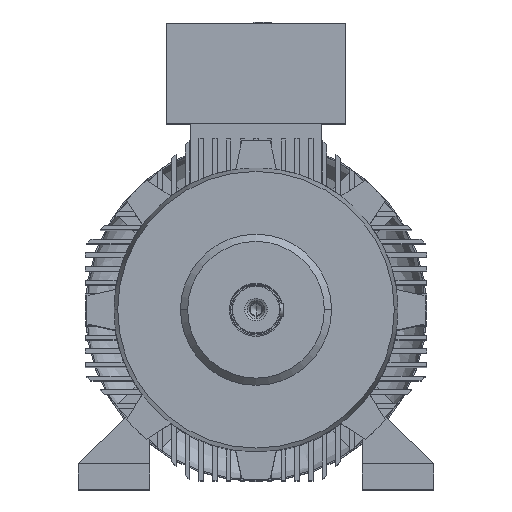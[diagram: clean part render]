
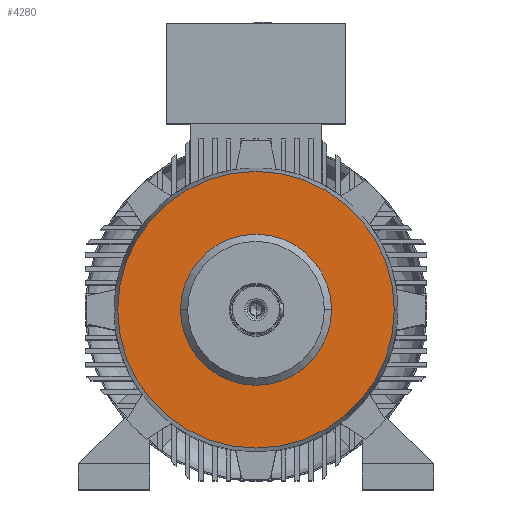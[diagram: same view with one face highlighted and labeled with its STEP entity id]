
A CAD part, top view. The second image highlights one B-rep face of the part: STEP entity #4280.
In plain terms, the highlighted planar face has unit normal (0, 0, 1).
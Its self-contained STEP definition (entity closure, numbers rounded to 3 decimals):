
#6 = DIRECTION ( 'NONE',  ( 0., 0., -1. ) ) ;
#317 = FACE_OUTER_BOUND ( 'NONE', #11573, .T. ) ;
#465 = AXIS2_PLACEMENT_3D ( 'NONE', #8291, #15051, #10651 ) ;
#1075 = CARTESIAN_POINT ( 'NONE',  ( 117.8, 0., 383.3 ) ) ;
#2151 = EDGE_CURVE ( 'NONE', #15512, #13741, #19038, .T. ) ;
#2613 = PLANE ( 'NONE',  #28992 ) ;
#4280 = ADVANCED_FACE ( 'NONE', ( #14175, #317 ), #2613, .F. ) ;
#5361 = DIRECTION ( 'NONE',  ( 0., 0., -1. ) ) ;
#6161 = CARTESIAN_POINT ( 'NONE',  ( 0., 0., 383.3 ) ) ;
#7180 = ORIENTED_EDGE ( 'NONE', *, *, #10897, .T. ) ;
#8291 = CARTESIAN_POINT ( 'NONE',  ( 0., 0., 383.3 ) ) ;
#8577 = EDGE_CURVE ( 'NONE', #13741, #15512, #25016, .T. ) ;
#9967 = CIRCLE ( 'NONE', #18333, 117.8 ) ;
#10133 = DIRECTION ( 'NONE',  ( 1., 0., 0. ) ) ;
#10651 = DIRECTION ( 'NONE',  ( 1., 0., 0. ) ) ;
#10735 = EDGE_LOOP ( 'NONE', ( #29249, #7180 ) ) ;
#10897 = EDGE_CURVE ( 'NONE', #12649, #18101, #9967, .T. ) ;
#11573 = EDGE_LOOP ( 'NONE', ( #13871, #15370 ) ) ;
#11678 = DIRECTION ( 'NONE',  ( 1., 0., 0. ) ) ;
#12649 = VERTEX_POINT ( 'NONE', #18479 ) ;
#12777 = DIRECTION ( 'NONE',  ( 0., 0., 1. ) ) ;
#13271 = DIRECTION ( 'NONE',  ( 0., 0., 1. ) ) ;
#13741 = VERTEX_POINT ( 'NONE', #18198 ) ;
#13871 = ORIENTED_EDGE ( 'NONE', *, *, #8577, .T. ) ;
#14175 = FACE_BOUND ( 'NONE', #10735, .T. ) ;
#14530 = DIRECTION ( 'NONE',  ( 1., 0., 0. ) ) ;
#15051 = DIRECTION ( 'NONE',  ( 0., 0., -1. ) ) ;
#15370 = ORIENTED_EDGE ( 'NONE', *, *, #2151, .T. ) ;
#15512 = VERTEX_POINT ( 'NONE', #28819 ) ;
#18101 = VERTEX_POINT ( 'NONE', #1075 ) ;
#18198 = CARTESIAN_POINT ( 'NONE',  ( 215.714, 0., 383.3 ) ) ;
#18333 = AXIS2_PLACEMENT_3D ( 'NONE', #20941, #6, #11678 ) ;
#18479 = CARTESIAN_POINT ( 'NONE',  ( -117.8, 0., 383.3 ) ) ;
#18542 = CIRCLE ( 'NONE', #465, 117.8 ) ;
#19038 = CIRCLE ( 'NONE', #19209, 215.714 ) ;
#19209 = AXIS2_PLACEMENT_3D ( 'NONE', #19803, #12777, #10133 ) ;
#19803 = CARTESIAN_POINT ( 'NONE',  ( 0., 0., 383.3 ) ) ;
#20941 = CARTESIAN_POINT ( 'NONE',  ( 0., 0., 383.3 ) ) ;
#22208 = EDGE_CURVE ( 'NONE', #18101, #12649, #18542, .T. ) ;
#25016 = CIRCLE ( 'NONE', #29478, 215.714 ) ;
#28650 = CARTESIAN_POINT ( 'NONE',  ( 0., 215.714, 383.3 ) ) ;
#28819 = CARTESIAN_POINT ( 'NONE',  ( -215.714, 0., 383.3 ) ) ;
#28992 = AXIS2_PLACEMENT_3D ( 'NONE', #28650, #5361, #14530 ) ;
#29249 = ORIENTED_EDGE ( 'NONE', *, *, #22208, .T. ) ;
#29339 = DIRECTION ( 'NONE',  ( 1., 0., 0. ) ) ;
#29478 = AXIS2_PLACEMENT_3D ( 'NONE', #6161, #13271, #29339 ) ;
